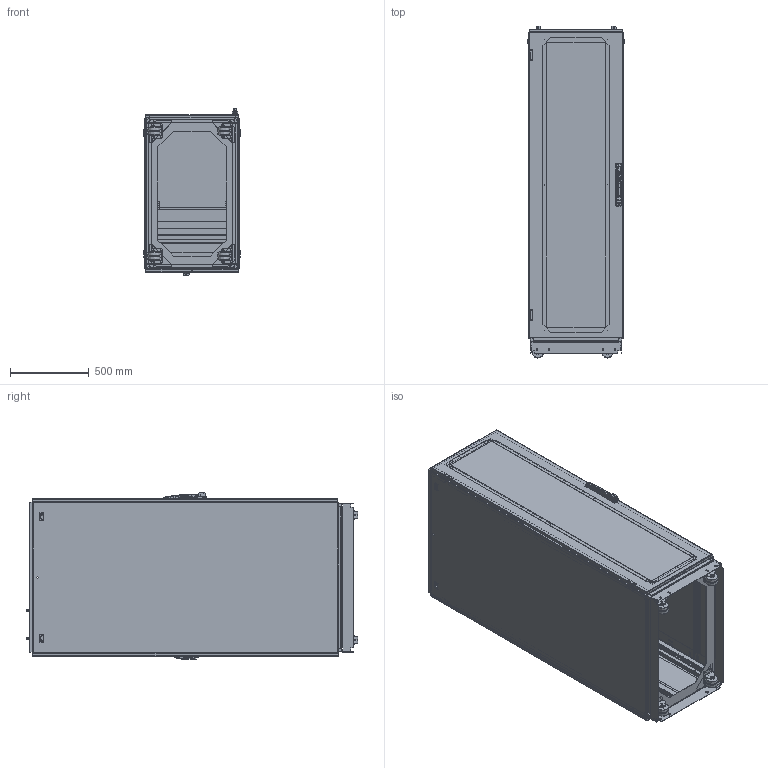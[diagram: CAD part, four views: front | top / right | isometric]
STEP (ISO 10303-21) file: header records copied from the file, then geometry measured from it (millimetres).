
FILE_DESCRIPTION((''),'2;1');
FILE_NAME('D:\scratch\ideas\assy_datacom_server_cabinet.stp', '2007-10-17T14:55:46',('User'),('SDRC'),'I-DEAS Master Series 9','UNIX', 'Yes');
FILE_SCHEMA(('AUTOMOTIVE_DESIGN { 1 0 10303 214 0 1 1 1 }'));
Length unit declared in the file: inch
Products named in the file (58): 87556606; assy_Frame_p/l_20x6x10; frm_front-to-back-1000mm; frm_upright_2000mm; frm_side-to-side-600mm; 51218-001; 87786839; assy_corner_brkts_610; 87751473; 87751474; 87750022; 87556605; 11258507; plate_caster_hoffman_std; wheel_caster_hoffman_std; 87556603; 87417311; 87556602; assy_top_thermal_610; 87793672; 60100041; 87793662; 99401225; 45129001; 87793688; gskt_1in_600; 11158148; assy_cover_side_datacom_server; 87411067; 87556588; 87556587; 87566046; assy_dr_master_206; handle_assy; handle; insert_keylock_small_flush; 11458171; 8778xxxx; 87788602; 87563014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
Assembly tree (109 placements, depth 5):
  87556606
    assy_Frame_p/l_20x6x10
      frm_front-to-back-1000mm  x4
      frm_upright_2000mm  x4
      frm_side-to-side-600mm  x4
      51218-001  x8
      87786839  x6
      assy_corner_brkts_610
        87751473  x4
          87751474
          87750022
    87556605
      11258507  x4
        plate_caster_hoffman_std
        wheel_caster_hoffman_std
      87556603
        87417311  x4
        87556602
    assy_top_thermal_610
      87793672
        87793672
        60100041
        87793662
        99401225  x4
      45129001  x4
      87793688  x2
        gskt_1in_600
        87793688
    11158148  x4
    assy_cover_side_datacom_server  x2
      87411067
      87556588
        87556587
    87566046  x4
    assy_dr_master_206
      handle_assy
        handle
        insert_keylock_small_flush
        11458171
      8778xxxx
        87788602
        8778xxxx
    8778xxxx
      87788602
      8778xxxx
    87563014
      assy_din_flush_handle
        60127208
        11458038
        11458036
        11358763
      87552731
      87552227
        DOOR CORNER  x4
        60127160  x2
        60127383  x2
      87758513
        60127101  x2
        87758504
Bounding box: 610.62 x 2106.13 x 1059.12 mm (x, y, z)
Volume: 22228137.3 mm3; surface area: 23406515.8 mm2
Topology: 95 solids, 95 shells, 13798 faces, 39049 edges, 26147 vertices
Faces by surface type: bspline 13798
Entity records: 171575 total; most frequent: CARTESIAN_POINT 82989, ORIENTED_EDGE 27028, EDGE_CURVE 13514, VERTEX_POINT 8820, EDGE_LOOP 7070, QUASI_UNIFORM_CURVE 6002, B_SPLINE_CURVE_WITH_KNOTS 4989, FACE_OUTER_BOUND 4914
